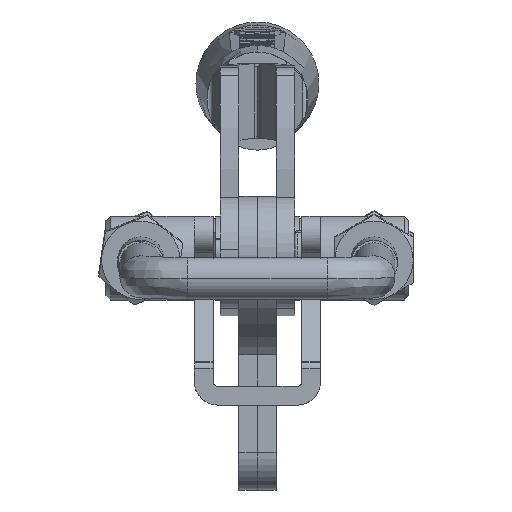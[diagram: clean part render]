
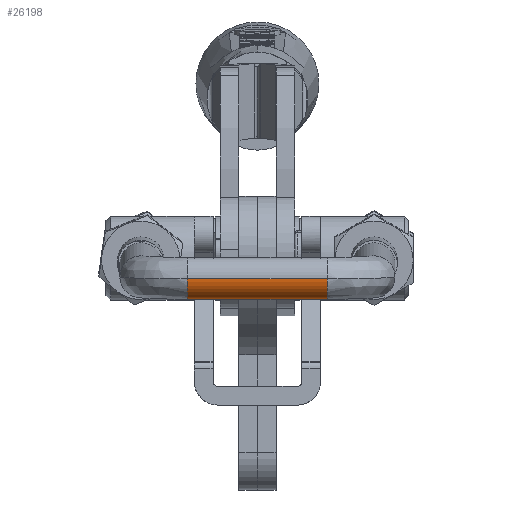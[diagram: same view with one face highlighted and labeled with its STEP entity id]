
A CAD part, left-side view. The second image highlights one B-rep face of the part: STEP entity #26198.
In plain terms, the highlighted cylindrical face has radius 4.5 mm (diameter 9 mm), a partial arc.
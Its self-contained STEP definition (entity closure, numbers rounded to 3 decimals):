
#434 = AXIS2_PLACEMENT_3D ( 'NONE', #18785, #24137, #5069 ) ;
#647 = LINE ( 'NONE', #7665, #12308 ) ;
#2612 = CARTESIAN_POINT ( 'NONE',  ( -4.5, 0., -15. ) ) ;
#2790 = CARTESIAN_POINT ( 'NONE',  ( 0., 0., -15. ) ) ;
#4681 = CARTESIAN_POINT ( 'NONE',  ( 4.5, 0., 15. ) ) ;
#5069 = DIRECTION ( 'NONE',  ( 1., 0., 0. ) ) ;
#5163 = DIRECTION ( 'NONE',  ( 1., 0., 0. ) ) ;
#5248 = CARTESIAN_POINT ( 'NONE',  ( -4.5, 0., -15. ) ) ;
#6903 = AXIS2_PLACEMENT_3D ( 'NONE', #6997, #26064, #5163 ) ;
#6997 = CARTESIAN_POINT ( 'NONE',  ( 0., 0., 15. ) ) ;
#7665 = CARTESIAN_POINT ( 'NONE',  ( 4.5, 0., -15. ) ) ;
#8472 = ORIENTED_EDGE ( 'NONE', *, *, #12419, .T. ) ;
#9212 = VERTEX_POINT ( 'NONE', #28771 ) ;
#9689 = EDGE_CURVE ( 'NONE', #12782, #29926, #26000, .T. ) ;
#12308 = VECTOR ( 'NONE', #26290, 1000. ) ;
#12419 = EDGE_CURVE ( 'NONE', #9212, #15331, #647, .T. ) ;
#12782 = VERTEX_POINT ( 'NONE', #2612 ) ;
#12909 = EDGE_CURVE ( 'NONE', #15331, #29926, #13230, .T. ) ;
#13230 = CIRCLE ( 'NONE', #6903, 4.5 ) ;
#15331 = VERTEX_POINT ( 'NONE', #4681 ) ;
#16832 = DIRECTION ( 'NONE',  ( 0., 0., 1. ) ) ;
#18785 = CARTESIAN_POINT ( 'NONE',  ( 0., 0., -15. ) ) ;
#18994 = EDGE_LOOP ( 'NONE', ( #22954, #19491, #8472, #24805 ) ) ;
#19155 = VECTOR ( 'NONE', #16832, 1000. ) ;
#19491 = ORIENTED_EDGE ( 'NONE', *, *, #27992, .F. ) ;
#21401 = DIRECTION ( 'NONE',  ( 0., 0., -1. ) ) ;
#22954 = ORIENTED_EDGE ( 'NONE', *, *, #9689, .F. ) ;
#24137 = DIRECTION ( 'NONE',  ( 0., 0., 1. ) ) ;
#24805 = ORIENTED_EDGE ( 'NONE', *, *, #12909, .T. ) ;
#25038 = DIRECTION ( 'NONE',  ( -1., 0., 0. ) ) ;
#26000 = LINE ( 'NONE', #5248, #19155 ) ;
#26045 = CIRCLE ( 'NONE', #29955, 4.5 ) ;
#26064 = DIRECTION ( 'NONE',  ( 0., 0., -1. ) ) ;
#26198 = ADVANCED_FACE ( 'NONE', ( #28245 ), #28411, .T. ) ;
#26290 = DIRECTION ( 'NONE',  ( 0., 0., 1. ) ) ;
#27992 = EDGE_CURVE ( 'NONE', #9212, #12782, #26045, .T. ) ;
#28245 = FACE_OUTER_BOUND ( 'NONE', #18994, .T. ) ;
#28411 = CYLINDRICAL_SURFACE ( 'NONE', #434, 4.5 ) ;
#28592 = CARTESIAN_POINT ( 'NONE',  ( -4.5, 0., 15. ) ) ;
#28771 = CARTESIAN_POINT ( 'NONE',  ( 4.5, 0., -15. ) ) ;
#29926 = VERTEX_POINT ( 'NONE', #28592 ) ;
#29955 = AXIS2_PLACEMENT_3D ( 'NONE', #2790, #21401, #25038 ) ;
